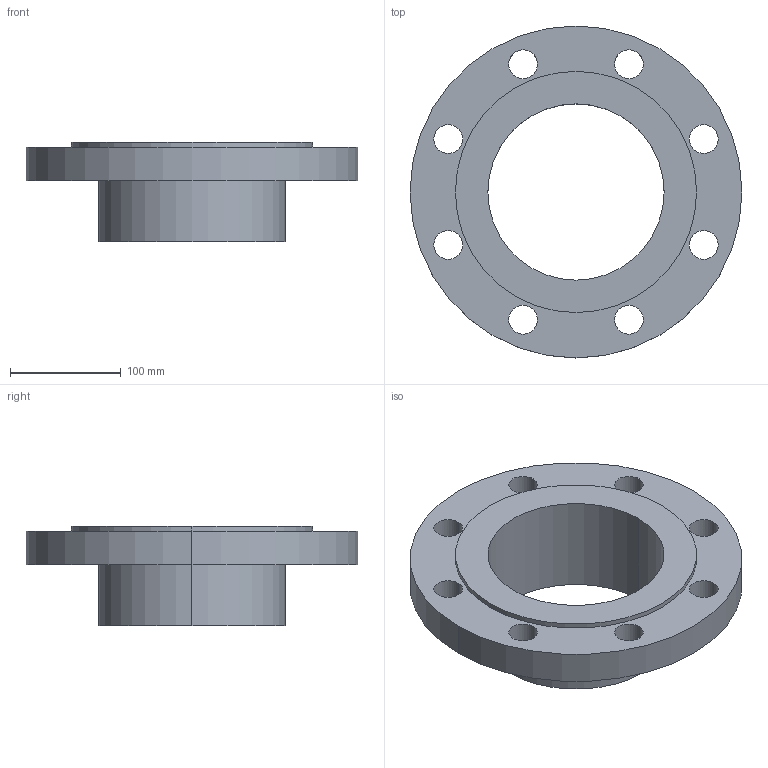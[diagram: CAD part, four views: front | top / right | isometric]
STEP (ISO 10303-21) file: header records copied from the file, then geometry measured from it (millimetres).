
FILE_DESCRIPTION (( 'STEP AP214' ), '1' );
FILE_NAME ('PN40 DN150 Type 02 in 33 - (Type A Face).STEP', '2019-01-05T00:24:20', ( '' ), ( '' ), 'SwSTEP 2.0', 'SolidWorks 2019', '' );
FILE_SCHEMA (( 'AUTOMOTIVE_DESIGN' ));
Length unit declared in the file: millimetre
Products named in the file (1): PN40 DN150 Type 02 in 33 - (Type A Face)
Bounding box: 300 x 300 x 89.5 mm (x, y, z)
Volume: 1554575.8 mm3; surface area: 273514.4 mm2
Topology: 2 solids, 2 shells, 35 faces, 86 edges, 56 vertices
Faces by surface type: cylinder 26, plane 5, cone 4
Entity records: 1147 total; most frequent: DIRECTION 214, CARTESIAN_POINT 178, ORIENTED_EDGE 172, AXIS2_PLACEMENT_3D 92, EDGE_CURVE 86, CIRCLE 56, EDGE_LOOP 56, VERTEX_POINT 56
